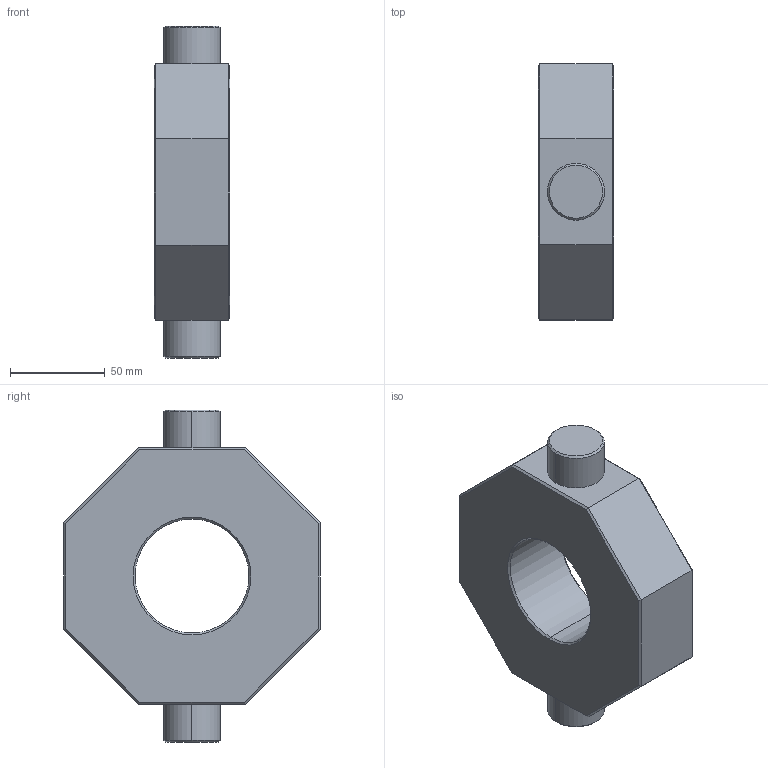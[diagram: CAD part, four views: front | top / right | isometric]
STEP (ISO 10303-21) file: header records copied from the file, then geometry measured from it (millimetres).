
FILE_DESCRIPTION (( 'STEP AP214' ), '1' );
FILE_NAME ('LB-KA-60.STEP', '2025-04-08T12:24:25', ( '' ), ( '' ), 'SwSTEP 2.0', 'SolidWorks 2023', '' );
FILE_SCHEMA (( 'AUTOMOTIVE_DESIGN' ));
Length unit declared in the file: millimetre
Products named in the file (1): LB-KA-60
Bounding box: 40 x 135 x 175 mm (x, y, z)
Volume: 513357.3 mm3; surface area: 55731.8 mm2
Topology: 1 solids, 1 shells, 78 faces, 174 edges, 94 vertices
Faces by surface type: cone 32, plane 28, cylinder 18
Entity records: 2053 total; most frequent: DIRECTION 376, CARTESIAN_POINT 335, ORIENTED_EDGE 324, EDGE_CURVE 162, AXIS2_PLACEMENT_3D 135, LINE 106, VECTOR 106, VERTEX_POINT 94
